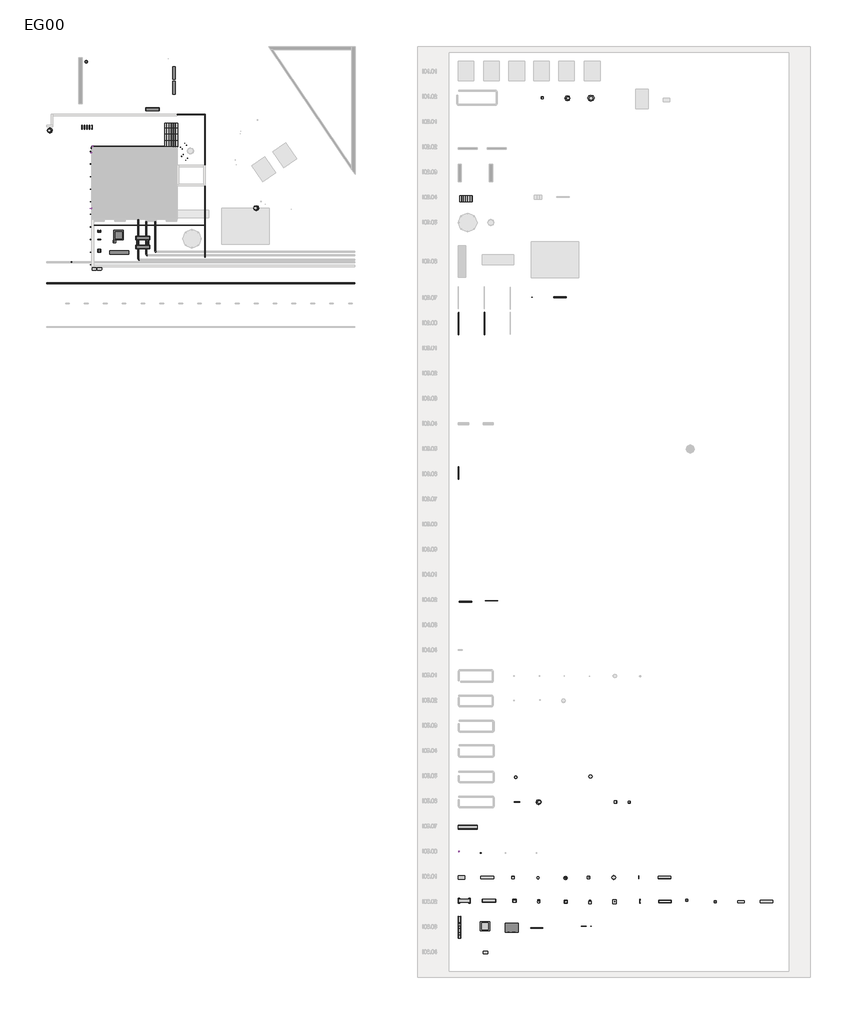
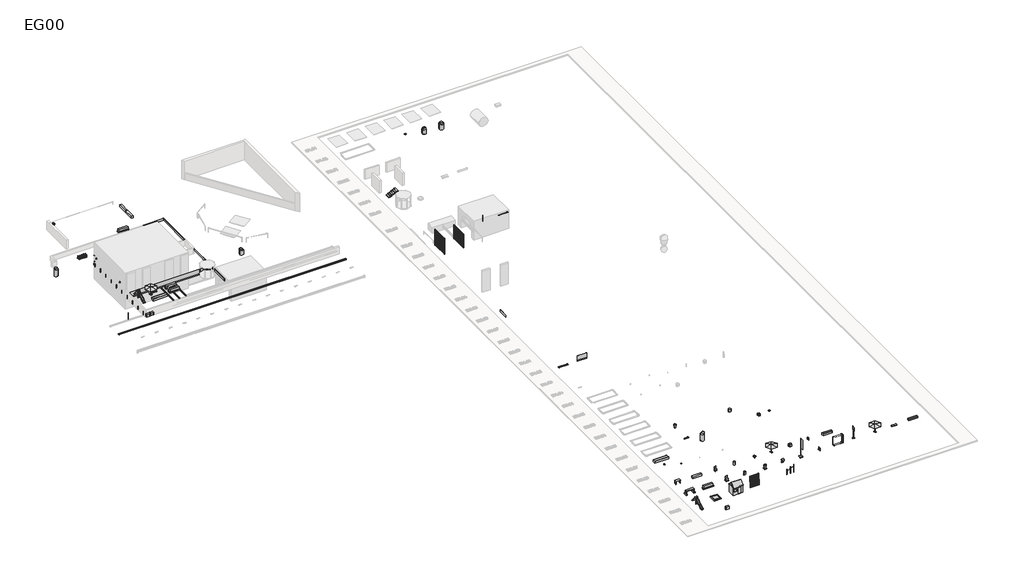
# One storey, part 2 of 11: 50 furniture elements, 19 proxies, 12 flow terminals, 11 railings, 5 stair flights, 3 pipe fittings, 3 pipe segments.
"""IFC4 building model written with IfcOpenShell, lengths in millimetres."""

from ifc_helpers import new_model, si_unit, point, frame, frame_2d, origin, place, context, project, spatial, circle_curve, trimmed, segment, composite_curve, outline, extrude, transform, mapped, element, save
from components import electrical_fixtures_34297ac7, electrical_fixtures_3000d69f, electrical_fixtures_b391b782, electrical_equipment_b557190b, electrical_equipment_8076ec5c, electrical_equipment_b3faa87d, electrical_fixtures_0368c62d, flow_terminal_82f1f436, flow_terminal_9764207f, flow_terminal_2da2d334, flow_terminal_26ed87ea, flow_terminal_a3e2234b, flow_terminal_ff592e24, flow_terminal_dcfcd022, electrical_fixtures_4c376501, flow_terminal_b57fc72c, flow_terminal_e8c35260, flow_terminal_22d4d4f2, furniture_6561b1c4, furniture_8dd0353e, furniture_915aded3, furniture_189685f6, furniture_dd9871c5, furniture_d59bbce5, furniture_fb11fbc3, furniture_830f77a6, furniture_6815aafc, furniture_3bc6ac6a, furniture_ff813913, furniture_e2d0ad92, furniture_258186c3, furniture_b44a5947, furniture_e13cb9a2, furniture_c1f0b13a, furniture_fefc07bd, furniture_3b0ba110, furniture_cb038389, furniture_f3e5ba3b, furniture_a2e2619c, furniture_e3935824, furniture_89e2eb93, furniture_42533b2d, furniture_2ee7efec, furniture_f8f826ff, furniture_ca1d1933, furniture_eb3f1c25, furniture_8d152977, bank_5bc5535e, bank_43931836, bank_31ef46f5, bank_18354e37, stuhl_65f0d0b8, stuhl_560c61f8, tisch_db3c5c43, tisch_469a66c3, tisch_c2e6e28e, tisch_132eb69d, bogen_9026c7fe, railing_e47c1bca, railing_e28421ba, railing_3c37f2a9, railing_6865458b, railing_da5ac5a1, railing_d0e901f3, railing_8d147197, railing_af8d3a7c, railing_17d5b5cc, railing_8559cf88, railing_fcaee8eb, railing_48c5bdfc, railing_4b05dc59, rinne_cb473c72, rinne_822a3f2f, stair_flight_353c6861, stair_flight_7bdfbe37, stair_flight_c193be0b, stair_flight_f215e563, stair_flight_71055052

model = new_model("IFC4")

# Units and contexts
model_context = context("Model", 3, world=origin())
ifc_project = project(units=[si_unit("LENGTHUNIT", "METRE", prefix="MILLI")], contexts=[model_context])

# Site, building, storey
site = spatial("IfcSite", under=ifc_project)
building = spatial("IfcBuilding", under=site)
storey = spatial("IfcBuildingStorey", under=building, Name="EG00", Elevation=0.0)

# Proxies
placement = place(None, origin())
electrical_fixtures_shape = electrical_fixtures_34297ac7(model_context)
element("IfcBuildingElementProxy", 1, Name="Zutrittskontrollanlage : Zutrittskontrollanlage", ObjectType="Zutrittskontrollanlage : Zutrittskontrollanlage", at=placement, inside=storey, context=model_context, shape_type="MappedRepresentation", body=[
    mapped(electrical_fixtures_shape, transform((-6366.4221303, -5695.8978657, 0.0), x_axis=(1.0, 0.0, 0.0), y_axis=(0.0, 1.0, 0.0), z_axis=(0.0, 0.0, 1.0))),
])
electrical_fixtures_2_shape = electrical_fixtures_3000d69f(model_context)
element("IfcBuildingElementProxy", 2, Name="Videoüberwachungsanlage : Videoüberwachungsanlage", ObjectType="Videoüberwachungsanlage : Videoüberwachungsanlage", at=placement, inside=storey, context=model_context, shape_type="MappedRepresentation", body=[
    mapped(electrical_fixtures_2_shape, transform((46822.626143, -117743.5925041, 0.0), x_axis=(-1.0, 0.0, 0.0), y_axis=(0.0, -1.0, 0.0), z_axis=(0.0, 0.0, 1.0))),
])
electrical_fixtures_3_shape = electrical_fixtures_b391b782(model_context)
element("IfcBuildingElementProxy", 3, Name="Einbruchmeldeanlage, Überfallmeldeanlage : Einbruchmeldeanlage, Überfallmeldeanlage", ObjectType="Einbruchmeldeanlage, Überfallmeldeanlage : Einbruchmeldeanlage, Überfallmeldeanlage", at=placement, inside=storey, context=model_context, shape_type="MappedRepresentation", body=[
    mapped(electrical_fixtures_3_shape, transform((50380.1292997, -118065.219709, 0.0), x_axis=(-1.0, 0.0, 0.0), y_axis=(0.0, -1.0, 0.0), z_axis=(0.0, 0.0, 1.0))),
])
electrical_equipment_shape = electrical_equipment_b557190b(model_context)
element("IfcBuildingElementProxy", 4, Name="Starkstromdose : Starkstromdose", ObjectType="Starkstromdose : Starkstromdose", at=placement, inside=storey, context=model_context, shape_type="MappedRepresentation", body=[
    mapped(electrical_equipment_shape, transform((-11551.8892616, -5972.7087936, 0.0), x_axis=(1.0, 0.0, 0.0), y_axis=(0.0, 1.0, 0.0), z_axis=(0.0, 0.0, 1.0))),
])
electrical_equipment_2_shape = electrical_equipment_8076ec5c(model_context)
element("IfcBuildingElementProxy", 5, Name="Aussenleuchten : Aussenleuchten", ObjectType="Aussenleuchten : Aussenleuchten", at=placement, inside=storey, context=model_context, shape_type="MappedRepresentation", body=[
    mapped(electrical_equipment_2_shape, transform((-11731.2571469, -6546.697095, 0.0), x_axis=(1.0, 0.0, 0.0), y_axis=(0.0, 1.0, 0.0), z_axis=(0.0, 0.0, 1.0))),
])
element("IfcBuildingElementProxy", 6, Name="Aussenleuchten : Aussenleuchten", ObjectType="Aussenleuchten : Aussenleuchten", at=placement, inside=storey, context=model_context, shape_type="MappedRepresentation", body=[
    mapped(electrical_equipment_2_shape, transform((-11731.2571469, -8546.697095, 0.0), x_axis=(1.0, 0.0, 0.0), y_axis=(0.0, 1.0, 0.0), z_axis=(0.0, 0.0, 1.0))),
])
element("IfcBuildingElementProxy", 7, Name="Aussenleuchten : Aussenleuchten", ObjectType="Aussenleuchten : Aussenleuchten", at=placement, inside=storey, context=model_context, shape_type="MappedRepresentation", body=[
    mapped(electrical_equipment_2_shape, transform((-11731.2571469, -10546.697095, 0.0), x_axis=(1.0, 0.0, 0.0), y_axis=(0.0, 1.0, 0.0), z_axis=(0.0, 0.0, 1.0))),
])
element("IfcBuildingElementProxy", 8, Name="Aussenleuchten : Aussenleuchten", ObjectType="Aussenleuchten : Aussenleuchten", at=placement, inside=storey, context=model_context, shape_type="MappedRepresentation", body=[
    mapped(electrical_equipment_2_shape, transform((-11731.2571469, -12546.697095, 0.0), x_axis=(1.0, 0.0, 0.0), y_axis=(0.0, 1.0, 0.0), z_axis=(0.0, 0.0, 1.0))),
])
element("IfcBuildingElementProxy", 9, Name="Aussenleuchten : Aussenleuchten", ObjectType="Aussenleuchten : Aussenleuchten", at=placement, inside=storey, context=model_context, shape_type="MappedRepresentation", body=[
    mapped(electrical_equipment_2_shape, transform((-11731.2571469, -14546.697095, 0.0), x_axis=(1.0, 0.0, 0.0), y_axis=(0.0, 1.0, 0.0), z_axis=(0.0, 0.0, 1.0))),
])
element("IfcBuildingElementProxy", 10, Name="Aussenleuchten : Aussenleuchten", ObjectType="Aussenleuchten : Aussenleuchten", at=placement, inside=storey, context=model_context, shape_type="MappedRepresentation", body=[
    mapped(electrical_equipment_2_shape, transform((-11731.2571469, -16546.697095, 0.0), x_axis=(1.0, 0.0, 0.0), y_axis=(0.0, 1.0, 0.0), z_axis=(0.0, 0.0, 1.0))),
])
element("IfcBuildingElementProxy", 11, Name="Aussenleuchten : Aussenleuchten", ObjectType="Aussenleuchten : Aussenleuchten", at=placement, inside=storey, context=model_context, shape_type="MappedRepresentation", body=[
    mapped(electrical_equipment_2_shape, transform((-11731.2571469, -18546.697095, 0.0), x_axis=(1.0, 0.0, 0.0), y_axis=(0.0, 1.0, 0.0), z_axis=(0.0, 0.0, 1.0))),
])
element("IfcBuildingElementProxy", 12, Name="Aussenleuchten : Aussenleuchten", ObjectType="Aussenleuchten : Aussenleuchten", at=placement, inside=storey, context=model_context, shape_type="MappedRepresentation", body=[
    mapped(electrical_equipment_2_shape, transform((-11731.2571469, -20546.697095, 0.0), x_axis=(1.0, 0.0, 0.0), y_axis=(0.0, 1.0, 0.0), z_axis=(0.0, 0.0, 1.0))),
])
element("IfcBuildingElementProxy", 13, Name="Aussenleuchten : Aussenleuchten", ObjectType="Aussenleuchten : Aussenleuchten", at=placement, inside=storey, context=model_context, shape_type="MappedRepresentation", body=[
    mapped(electrical_equipment_2_shape, transform((-11731.2571469, -22546.697095, 0.0), x_axis=(1.0, 0.0, 0.0), y_axis=(0.0, 1.0, 0.0), z_axis=(0.0, 0.0, 1.0))),
])
element("IfcBuildingElementProxy", 14, Name="Aussenleuchten : Aussenleuchten", ObjectType="Aussenleuchten : Aussenleuchten", at=placement, inside=storey, context=model_context, shape_type="MappedRepresentation", body=[
    mapped(electrical_equipment_2_shape, transform((-11731.2571469, -24546.697095, 0.0), x_axis=(1.0, 0.0, 0.0), y_axis=(0.0, 1.0, 0.0), z_axis=(0.0, 0.0, 1.0))),
])
element("IfcBuildingElementProxy", 15, Name="Schwachstromdose : Schwachstromdose", ObjectType="Schwachstromdose : Schwachstromdose", at=placement, inside=storey, context=model_context, shape_type="MappedRepresentation", body=[
    mapped(electrical_equipment_shape, transform((-11551.8892616, -5892.7087936, 0.0), x_axis=(1.0, 0.0, 0.0), y_axis=(0.0, 1.0, 0.0), z_axis=(0.0, 0.0, 1.0))),
])
electrical_equipment_3_shape = electrical_equipment_b3faa87d(model_context)
element("IfcBuildingElementProxy", 16, Name="Schwachstromschalter : Schwachstromschalter", ObjectType="Schwachstromschalter : Schwachstromschalter", at=placement, inside=storey, context=model_context, shape_type="MappedRepresentation", body=[
    mapped(electrical_equipment_3_shape, transform((-11551.8892616, -6052.7087936, 0.0), x_axis=(0.0, -1.0, 0.0), y_axis=(1.0, 0.0, 0.0), z_axis=(0.0, 0.0, 1.0))),
])
electrical_fixtures_4_shape = electrical_fixtures_0368c62d(model_context)
element("IfcBuildingElementProxy", 17, Name="Videoüberwachungsanlage : Videoüberwachungsanlage", ObjectType="Videoüberwachungsanlage : Videoüberwachungsanlage", at=placement, inside=storey, context=model_context, shape_type="MappedRepresentation", body=[
    mapped(electrical_fixtures_4_shape, transform((-11405.4157618, -5825.8978657, 0.0), x_axis=(-1.0, 0.0, 0.0), y_axis=(0.0, -1.0, 0.0), z_axis=(0.0, 0.0, 1.0))),
])
element("IfcBuildingElementProxy", 18, Name="Videoüberwachungsanlage : Videoüberwachungsanlage", ObjectType="Videoüberwachungsanlage : Videoüberwachungsanlage", at=placement, inside=storey, context=model_context, shape_type="MappedRepresentation", body=[
    mapped(electrical_fixtures_4_shape, transform((-11511.8892616, -15589.0459192, 0.0), x_axis=(0.0, -1.0, 0.0), y_axis=(1.0, 0.0, 0.0), z_axis=(0.0, 0.0, 1.0))),
])
element("IfcBuildingElementProxy", 19, Name="Videoüberwachungsanlage : Videoüberwachungsanlage", ObjectType="Videoüberwachungsanlage : Videoüberwachungsanlage", at=placement, inside=storey, context=model_context, shape_type="MappedRepresentation", body=[
    mapped(electrical_fixtures_4_shape, transform((-11511.8892616, -6749.0459192, 0.0), x_axis=(0.0, -1.0, 0.0), y_axis=(1.0, 0.0, 0.0), z_axis=(0.0, 0.0, 1.0))),
])

# Flow terminals
flow_terminal_shape = flow_terminal_82f1f436(model_context)
element("IfcFlowTerminal", 20, ObjectType="Versickerungsschacht : Versickerungsschacht", at=placement, inside=storey, context=model_context, shape_type="MappedRepresentation", body=[
    mapped(flow_terminal_shape, transform((64167.0325552, 1925.7230368, 0.0), x_axis=(-1.0, 0.0, 0.0), y_axis=(0.0, -1.0, 0.0), z_axis=(0.0, 0.0, 1.0))),
])
flow_terminal_2_shape = flow_terminal_9764207f(model_context)
element("IfcFlowTerminal", 21, ObjectType="Kontrollschacht : Kontrollschacht", at=placement, inside=storey, context=model_context, shape_type="MappedRepresentation", body=[
    mapped(flow_terminal_2_shape, transform((60081.6510931, 1973.7164495, 0.0), x_axis=(-1.0, 0.0, 0.0), y_axis=(0.0, -1.0, 0.0), z_axis=(0.0, 0.0, 1.0))),
])
element("IfcFlowTerminal", 22, ObjectType="Kontrollschacht : Kontrollschacht", at=placement, inside=storey, context=model_context, shape_type="MappedRepresentation", body=[
    mapped(flow_terminal_2_shape, transform((73903.3799507, -109975.6236446, 0.0), x_axis=(-1.0, 0.0, 0.0), y_axis=(0.0, -1.0, 0.0), z_axis=(0.0, 0.0, 1.0))),
])
flow_terminal_3_shape = flow_terminal_2da2d334(model_context)
element("IfcFlowTerminal", 23, ObjectType="Pumpschacht : Pumpschacht", at=placement, inside=storey, context=model_context, shape_type="MappedRepresentation", body=[
    mapped(flow_terminal_3_shape, transform((67837.0325552, 1925.7230368, 0.0), x_axis=(-1.0, 0.0, 0.0), y_axis=(0.0, -1.0, 0.0), z_axis=(0.0, 0.0, 1.0))),
])
flow_terminal_4_shape = flow_terminal_26ed87ea(model_context)
element("IfcFlowTerminal", 24, ObjectType="Brunnen : Brunnen", at=placement, inside=storey, context=model_context, shape_type="MappedRepresentation", body=[
    mapped(flow_terminal_4_shape, transform((55871.6718923, -106032.2763043, 0.0), x_axis=(-1.0, 0.0, 0.0), y_axis=(0.0, -1.0, 0.0), z_axis=(0.0, 0.0, 1.0))),
])
flow_terminal_5_shape = flow_terminal_a3e2234b(model_context)
element("IfcFlowTerminal", 25, ObjectType="Einlaufschacht : Strassenablauf (Einlaufschacht)", at=placement, inside=storey, context=model_context, shape_type="MappedRepresentation", body=[
    mapped(flow_terminal_5_shape, transform((71703.3799507, -109969.0932533, 0.0), x_axis=(-1.0, 0.0, 0.0), y_axis=(0.0, -1.0, 0.0), z_axis=(0.0, 0.0, 1.0))),
])
flow_terminal_6_shape = flow_terminal_ff592e24(model_context)
element("IfcFlowTerminal", 26, ObjectType="Schlammsammler : Strassenablauf (Schlammsammler)", at=placement, inside=storey, context=model_context, shape_type="MappedRepresentation", body=[
    mapped(flow_terminal_6_shape, transform((59593.5658377, -109975.6236446, 0.0), x_axis=(-1.0, 0.0, 0.0), y_axis=(0.0, -1.0, 0.0), z_axis=(0.0, 0.0, 1.0))),
])
flow_terminal_7_shape = flow_terminal_dcfcd022(model_context)
element("IfcFlowTerminal", 27, ObjectType="Fixierte Ausstattung Brunnen : Brunnen", at=placement, inside=storey, context=model_context, shape_type="MappedRepresentation", body=[
    mapped(flow_terminal_7_shape, transform((63843.498535, -125832.1903529, 0.0), x_axis=(-1.0, 0.0, 0.0), y_axis=(0.0, -1.0, 0.0), z_axis=(0.0, 0.0, 1.0))),
])
electrical_fixtures_5_shape = electrical_fixtures_4c376501(model_context)
element("IfcFlowTerminal", 28, ObjectType="Technikschacht Sanitäre Anlage : Technikschacht", at=placement, inside=storey, context=model_context, shape_type="MappedRepresentation", body=[
    mapped(electrical_fixtures_5_shape, transform((67750.3461761, -105924.1987586, 0.0), x_axis=(-1.0, 0.0, 0.0), y_axis=(0.0, -1.0, 0.0), z_axis=(0.0, 0.0, 1.0))),
])
flow_terminal_8_shape = flow_terminal_b57fc72c(model_context)
element("IfcFlowTerminal", 29, ObjectType="Schlammsammler : Strassenablauf (Schlammsammler)", at=placement, inside=storey, context=model_context, shape_type="MappedRepresentation", body=[
    mapped(flow_terminal_8_shape, transform((-18304.7537228, -3203.9886736, 0.0), x_axis=(1.0, 0.0, 0.0), y_axis=(0.0, 1.0, 0.0), z_axis=(0.0, 0.0, 1.0))),
])
flow_terminal_9_shape = flow_terminal_e8c35260(model_context)
element("IfcFlowTerminal", 30, ObjectType="Versickerungsschacht : Versickerungsschacht", at=placement, inside=storey, context=model_context, shape_type="MappedRepresentation", body=[
    mapped(flow_terminal_9_shape, transform((14513.1107384, -15558.9886736, 380.0), x_axis=(1.0, 0.0, 0.0), y_axis=(0.0, 1.0, 0.0), z_axis=(0.0, 0.0, 1.0))),
])
flow_terminal_10_shape = flow_terminal_22d4d4f2(model_context)
element("IfcFlowTerminal", 31, ObjectType="Brunnen : Brunnen", at=placement, inside=storey, context=model_context, shape_type="MappedRepresentation", body=[
    mapped(flow_terminal_10_shape, transform((-12441.8892616, 7734.1171855, 708.7425535), x_axis=(1.0, 0.0, 0.0), y_axis=(0.0, 1.0, 0.0), z_axis=(0.0, 0.0, 1.0))),
])

# Furniture
furniture_shape = furniture_6561b1c4(model_context)
element("IfcFurniture", 32, ObjectType="Schutzplanke : Schutzplanke", at=placement, inside=storey, context=model_context, shape_type="MappedRepresentation", body=[
    mapped(furniture_shape, transform((62903.5833117, -29709.2259498, 0.0), x_axis=(-1.0, 0.0, 0.0), y_axis=(0.0, -1.0, 0.0), z_axis=(0.0, 0.0, 1.0))),
])
furniture_2_shape = furniture_8dd0353e(model_context)
element("IfcFurniture", 33, ObjectType="Poller : Poller", at=placement, inside=storey, context=model_context, shape_type="MappedRepresentation", body=[
    mapped(furniture_2_shape, transform((58480.5725088, -29716.4287825, 0.0), x_axis=(-1.0, 0.0, 0.0), y_axis=(0.0, -1.0, 0.0), z_axis=(0.0, 0.0, 1.0))),
])
furniture_3_shape = furniture_915aded3(model_context)
element("IfcFurniture", 34, ObjectType="Mobile Ausstattung Abfalleimer : Abfalleimer", at=placement, inside=storey, context=model_context, shape_type="MappedRepresentation", body=[
    mapped(furniture_3_shape, transform((59405.1754448, -122015.3747041, 0.0), x_axis=(-1.0, 0.0, 0.0), y_axis=(0.0, -1.0, 0.0), z_axis=(0.0, 0.0, 1.0))),
])
furniture_4_shape = furniture_189685f6(model_context)
element("IfcFurniture", 35, ObjectType="Mobile Ausstattung Pflanzgefäss : Pflanzgefäss", at=placement, inside=storey, context=model_context, shape_type="MappedRepresentation", body=[
    mapped(furniture_4_shape, transform((71452.8190351, -121967.7721721, 0.0), x_axis=(-1.0, 0.0, 0.0), y_axis=(0.0, -1.0, 0.0), z_axis=(0.0, 0.0, 1.0))),
])
furniture_5_shape = furniture_dd9871c5(model_context)
element("IfcFurniture", 36, ObjectType="Mobile Ausstattung Veloständer : Veloständer", at=placement, inside=storey, context=model_context, shape_type="MappedRepresentation", body=[
    mapped(furniture_5_shape, transform((75417.4242524, -121864.1260263, 0.0), x_axis=(-1.0, 0.0, 0.0), y_axis=(0.0, -1.0, 0.0), z_axis=(0.0, 0.0, 1.0))),
])
furniture_6_shape = furniture_d59bbce5(model_context)
element("IfcFurniture", 37, ObjectType="Mobile Ausstattung Materialbehälter : Materialbehälter", at=placement, inside=storey, context=model_context, shape_type="MappedRepresentation", body=[
    mapped(furniture_6_shape, transform((79495.8937145, -121936.7852484, 0.0), x_axis=(-1.0, 0.0, 0.0), y_axis=(0.0, -1.0, 0.0), z_axis=(0.0, 0.0, 1.0))),
])
element("IfcFurniture", 38, ObjectType="Mobile Ausstattung Materialbehälter : Materialbehälter", at=placement, inside=storey, context=model_context, shape_type="MappedRepresentation", body=[
    mapped(furniture_6_shape, transform((95733.4470613, -125801.3226029, 0.0), x_axis=(-1.0, 0.0, 0.0), y_axis=(0.0, -1.0, 0.0), z_axis=(0.0, 0.0, 1.0))),
])
furniture_7_shape = furniture_fb11fbc3(model_context)
element("IfcFurniture", 39, ObjectType="Transportanlage für Umgebung : Transportanlage für Umgebung", at=placement, inside=storey, context=model_context, shape_type="MappedRepresentation", body=[
    mapped(furniture_7_shape, transform((48222.626143, -113964.7448611, 0.0), x_axis=(-1.0, 0.0, 0.0), y_axis=(0.0, -1.0, 0.0), z_axis=(0.0, 0.0, 1.0))),
])
furniture_8_shape = furniture_830f77a6(model_context)
element("IfcFurniture", 40, ObjectType="Rankgerüst : Rankgerüst", at=placement, inside=storey, context=model_context, shape_type="MappedRepresentation", body=[
    mapped(furniture_8_shape, transform((78588.0889124, -125788.1240797, 0.0), x_axis=(-1.0, 0.0, 0.0), y_axis=(0.0, -1.0, 0.0), z_axis=(0.0, 0.0, 1.0))),
])
furniture_9_shape = furniture_6815aafc(model_context)
element("IfcFurniture", 41, ObjectType="Hochwasserschutzelement : Hochwasserschutzelement", at=placement, inside=storey, context=model_context, shape_type="MappedRepresentation", body=[
    mapped(furniture_9_shape, transform((91659.5428311, -125839.7381019, 0.0), x_axis=(-1.0, 0.0, 0.0), y_axis=(0.0, -1.0, 0.0), z_axis=(0.0, 0.0, 1.0))),
])
furniture_10_shape = furniture_3bc6ac6a(model_context)
element("IfcFurniture", 42, ObjectType="Rutsche : Rutsche", at=placement, inside=storey, context=model_context, shape_type="MappedRepresentation", body=[
    mapped(furniture_10_shape, transform((47138.2773181, -129229.697095, 0.0), x_axis=(-1.0, 0.0, 0.0), y_axis=(0.0, -1.0, 0.0), z_axis=(0.0, 0.0, 1.0))),
])
furniture_11_shape = furniture_ff813913(model_context)
element("IfcFurniture", 43, ObjectType="Sandkasten : Sandkasten", at=placement, inside=storey, context=model_context, shape_type="MappedRepresentation", body=[
    mapped(furniture_11_shape, transform((50961.6008151, -129719.697095, 0.0), x_axis=(-1.0, 0.0, 0.0), y_axis=(0.0, -1.0, 0.0), z_axis=(0.0, 0.0, 1.0))),
])
furniture_12_shape = furniture_e2d0ad92(model_context)
element("IfcFurniture", 44, ObjectType="Kletteranlage : Kletteranlage", at=placement, inside=storey, context=model_context, shape_type="MappedRepresentation", body=[
    mapped(furniture_12_shape, transform((59222.6625131, -130144.099996, 0.0), x_axis=(-1.0, 0.0, 0.0), y_axis=(0.0, -1.0, 0.0), z_axis=(0.0, 0.0, 1.0))),
])
furniture_13_shape = furniture_258186c3(model_context)
element("IfcFurniture", 45, ObjectType="Spielhaus : Spielhaus", at=placement, inside=storey, context=model_context, shape_type="MappedRepresentation", body=[
    mapped(furniture_13_shape, transform((55225.985609, -129719.697095, 0.0), x_axis=(-1.0, 0.0, 0.0), y_axis=(0.0, -1.0, 0.0), z_axis=(0.0, 0.0, 1.0))),
])
furniture_14_shape = furniture_b44a5947(model_context)
element("IfcFurniture", 46, ObjectType="Sportgerät : Sportgerät", at=placement, inside=storey, context=model_context, shape_type="MappedRepresentation", body=[
    mapped(furniture_14_shape, transform((67826.6357984, -129719.697095, 0.0), x_axis=(-1.0, 0.0, 0.0), y_axis=(0.0, -1.0, 0.0), z_axis=(0.0, 0.0, 1.0))),
])
furniture_15_shape = furniture_e13cb9a2(model_context)
element("IfcFurniture", 47, ObjectType="Rollcontainer : Rollcontainer", at=placement, inside=storey, context=model_context, shape_type="MappedRepresentation", body=[
    mapped(furniture_15_shape, transform((51048.0539375, -133897.3557688, 0.0), x_axis=(-1.0, 0.0, 0.0), y_axis=(0.0, -1.0, 0.0), z_axis=(0.0, 0.0, 1.0))),
])
furniture_16_shape = furniture_c1f0b13a(model_context)
element("IfcFurniture", 48, ObjectType="Fixierte Ausstattung Abfalleimer : Abfalleimer", at=placement, inside=storey, context=model_context, shape_type="MappedRepresentation", body=[
    mapped(furniture_16_shape, transform((59505.2855845, -125858.8723019, 0.0), x_axis=(-1.0, 0.0, 0.0), y_axis=(0.0, -1.0, 0.0), z_axis=(0.0, 0.0, 1.0))),
])
furniture_17_shape = furniture_fefc07bd(model_context)
element("IfcFurniture", 49, ObjectType="Fixierte Ausstattung Briefkasten : Briefkasten", at=placement, inside=storey, context=model_context, shape_type="MappedRepresentation", body=[
    mapped(furniture_17_shape, transform((67654.5709532, -125909.9949795, 0.0), x_axis=(-1.0, 0.0, 0.0), y_axis=(0.0, -1.0, 0.0), z_axis=(0.0, 0.0, 1.0))),
])
furniture_18_shape = furniture_3b0ba110(model_context)
element("IfcFurniture", 50, ObjectType="Fixierte Ausstattung Fahnenmast : Fahnenmast", at=placement, inside=storey, context=model_context, shape_type="MappedRepresentation", body=[
    mapped(furniture_18_shape, transform((71587.8042696, -126015.4363816, 0.0), x_axis=(-1.0, 0.0, 0.0), y_axis=(0.0, -1.0, 0.0), z_axis=(0.0, 0.0, 1.0))),
])
furniture_19_shape = furniture_cb038389(model_context)
element("IfcFurniture", 51, ObjectType="Fixierte Ausstattung Veloständer : Veloständer", at=placement, inside=storey, context=model_context, shape_type="MappedRepresentation", body=[
    mapped(furniture_19_shape, transform((75604.7071863, -125687.4521781, 0.0), x_axis=(-1.0, 0.0, 0.0), y_axis=(0.0, -1.0, 0.0), z_axis=(0.0, 0.0, 1.0))),
])
furniture_20_shape = furniture_f3e5ba3b(model_context)
element("IfcFurniture", 52, ObjectType="Fixierte Ausstattung Signaletik : Signaletik", at=placement, inside=storey, context=model_context, shape_type="MappedRepresentation", body=[
    mapped(furniture_20_shape, transform((83041.4569965, -125809.1402724, 0.0), x_axis=(-1.0, 0.0, 0.0), y_axis=(0.0, -1.0, 0.0), z_axis=(0.0, 0.0, 1.0))),
])
furniture_21_shape = furniture_a2e2619c(model_context)
element("IfcFurniture", 53, ObjectType="Fixierte Ausstattung Sonnenschutz : Sonnenschutz", at=placement, inside=storey, context=model_context, shape_type="MappedRepresentation", body=[
    mapped(furniture_21_shape, transform((87576.4664133, -125812.3101919, 0.0), x_axis=(-1.0, 0.0, 0.0), y_axis=(0.0, -1.0, 0.0), z_axis=(0.0, 0.0, 1.0))),
])
furniture_22_shape = furniture_e3935824(model_context)
element("IfcFurniture", 54, ObjectType="Mobile Ausstattung Sonnenschutz : Sonnenschutz", at=placement, inside=storey, context=model_context, shape_type="MappedRepresentation", body=[
    mapped(furniture_22_shape, transform((67471.0079255, -121949.1160004, 0.0), x_axis=(-1.0, 0.0, 0.0), y_axis=(0.0, -1.0, 0.0), z_axis=(0.0, 0.0, 1.0))),
])
furniture_23_shape = furniture_89e2eb93(model_context)
element("IfcFurniture", 55, ObjectType="Mobile Ausstattung Spielgerät : Spielgerät", at=placement, inside=storey, context=model_context, shape_type="MappedRepresentation", body=[
    mapped(furniture_23_shape, transform((63793.6411681, -122029.6804102, 0.0), x_axis=(1.0, 0.0, 0.0), y_axis=(0.0, 1.0, 0.0), z_axis=(0.0, 0.0, 1.0))),
])
element("IfcFurniture", 56, ObjectType="Poller : Poller", at=placement, inside=storey, context=model_context, shape_type="MappedRepresentation", body=[
    mapped(furniture_2_shape, transform((-14741.5513328, -24114.2149625, 0.0), x_axis=(1.0, 0.0, 0.0), y_axis=(0.0, 1.0, 0.0), z_axis=(0.0, 0.0, 1.0))),
])
furniture_24_shape = furniture_42533b2d(model_context)
element("IfcFurniture", 57, ObjectType="Transportanlage für Umgebung : Transportanlage für Umgebung", at=placement, inside=storey, context=model_context, shape_type="MappedRepresentation", body=[
    mapped(furniture_24_shape, transform((-7152.7537228, -22609.5588268, 1013.8635713), x_axis=(1.0, 0.0, 0.0), y_axis=(0.0, 1.0, 0.0), z_axis=(0.0, 0.0, 1.0))),
])
furniture_25_shape = furniture_2ee7efec(model_context)
element("IfcFurniture", 58, ObjectType="Mobile Ausstattung Sonnenschutz : Sonnenschutz", at=placement, inside=storey, context=model_context, shape_type="MappedRepresentation", body=[
    mapped(furniture_25_shape, transform((-7946.8892616, -20853.5588268, 1029.9200139), x_axis=(1.0, 0.0, 0.0), y_axis=(0.0, 1.0, 0.0), z_axis=(0.0, 0.0, 1.0))),
])
furniture_26_shape = furniture_f8f826ff(model_context)
element("IfcFurniture", 59, ObjectType="Rutsche : Rutsche", at=placement, inside=storey, context=model_context, shape_type="MappedRepresentation", body=[
    mapped(furniture_26_shape, transform((-10555.7537228, -20160.8978657, 1013.7276128), x_axis=(1.0, 0.0, 0.0), y_axis=(0.0, 1.0, 0.0), z_axis=(0.0, 0.0, 1.0))),
])
furniture_27_shape = furniture_ca1d1933(model_context)
element("IfcFurniture", 60, ObjectType="Sandkasten : Sandkasten", at=placement, inside=storey, context=model_context, shape_type="MappedRepresentation", body=[
    mapped(furniture_27_shape, transform((-7256.7537228, -19850.5588268, 1022.8090801), x_axis=(1.0, 0.0, 0.0), y_axis=(0.0, 1.0, 0.0), z_axis=(0.0, 0.0, 1.0))),
])
furniture_28_shape = furniture_eb3f1c25(model_context)
element("IfcFurniture", 61, ObjectType="Rollcontainer : Rollcontainer", at=placement, inside=storey, context=model_context, shape_type="MappedRepresentation", body=[
    mapped(furniture_28_shape, transform((-11142.8336119, -25194.0858026, -200.0), x_axis=(1.0, 0.0, 0.0), y_axis=(0.0, 1.0, 0.0), z_axis=(0.0, 0.0, 1.0))),
])
element("IfcFurniture", 62, ObjectType="Rollcontainer : Rollcontainer", at=placement, inside=storey, context=model_context, shape_type="MappedRepresentation", body=[
    mapped(furniture_28_shape, transform((-10329.8336119, -25194.0858026, -200.0), x_axis=(1.0, 0.0, 0.0), y_axis=(0.0, 1.0, 0.0), z_axis=(0.0, 0.0, 1.0))),
])
furniture_29_shape = furniture_8d152977(model_context)
element("IfcFurniture", 63, ObjectType="Fixierte Ausstattung Veloständer : Veloständer", at=placement, inside=storey, context=model_context, shape_type="MappedRepresentation", body=[
    mapped(furniture_29_shape, transform((-13084.7136455, -2618.9886736, 0.0), x_axis=(1.0, 0.0, 0.0), y_axis=(0.0, 1.0, 0.0), z_axis=(0.0, 0.0, 1.0))),
])
element("IfcFurniture", 64, ObjectType="Fixierte Ausstattung Veloständer : Veloständer", at=placement, inside=storey, context=model_context, shape_type="MappedRepresentation", body=[
    mapped(furniture_29_shape, transform((-12684.7136455, -2618.9886736, 0.0), x_axis=(1.0, 0.0, 0.0), y_axis=(0.0, 1.0, 0.0), z_axis=(0.0, 0.0, 1.0))),
])
element("IfcFurniture", 65, ObjectType="Fixierte Ausstattung Veloständer : Veloständer", at=placement, inside=storey, context=model_context, shape_type="MappedRepresentation", body=[
    mapped(furniture_29_shape, transform((-12284.7136455, -2618.9886736, 0.0), x_axis=(1.0, 0.0, 0.0), y_axis=(0.0, 1.0, 0.0), z_axis=(0.0, 0.0, 1.0))),
])
element("IfcFurniture", 66, ObjectType="Fixierte Ausstattung Veloständer : Veloständer", at=placement, inside=storey, context=model_context, shape_type="MappedRepresentation", body=[
    mapped(furniture_29_shape, transform((-11884.7136455, -2618.9886736, 0.0), x_axis=(1.0, 0.0, 0.0), y_axis=(0.0, 1.0, 0.0), z_axis=(0.0, 0.0, 1.0))),
])
element("IfcFurniture", 67, ObjectType="Fixierte Ausstattung Veloständer : Veloständer", at=placement, inside=storey, context=model_context, shape_type="MappedRepresentation", body=[
    mapped(furniture_29_shape, transform((-11484.7136455, -2618.9886736, 0.0), x_axis=(1.0, 0.0, 0.0), y_axis=(0.0, 1.0, 0.0), z_axis=(0.0, 0.0, 1.0))),
])
bank_shape = bank_5bc5535e(model_context)
element("IfcFurniture", 68, ObjectType="Mobile Ausstattung Bank : Bank", at=placement, inside=storey, context=model_context, shape_type="MappedRepresentation", body=[
    mapped(bank_shape, transform((51340.7906508, -121984.1232512, 0.0), x_axis=(-1.0, 0.0, 0.0), y_axis=(0.0, -1.0, 0.0), z_axis=(0.0, 0.0, 1.0))),
])
bank_2_shape = bank_43931836(model_context)
element("IfcFurniture", 69, ObjectType="Fixierte Ausstattung Bank : Bank", at=placement, inside=storey, context=model_context, shape_type="MappedRepresentation", body=[
    mapped(bank_2_shape, transform((51606.6843563, -125652.48626, 0.0), x_axis=(-1.0, 0.0, 0.0), y_axis=(0.0, -1.0, 0.0), z_axis=(0.0, 0.0, 1.0))),
])
bank_3_shape = bank_31ef46f5(model_context)
element("IfcFurniture", 70, ObjectType="Mobile Ausstattung Bank : Bank", at=placement, inside=storey, context=model_context, shape_type="MappedRepresentation", body=[
    mapped(bank_3_shape, transform((1550.7107183, 3596.6529572, 905.8064171), x_axis=(0.0, 1.0, 0.0), y_axis=(-1.0, 0.0, 0.0), z_axis=(0.0, 0.0, 1.0))),
])
element("IfcFurniture", 71, ObjectType="Mobile Ausstattung Bank : Bank", at=placement, inside=storey, context=model_context, shape_type="MappedRepresentation", body=[
    mapped(bank_3_shape, transform((1550.7107183, 5936.6529572, 905.8064171), x_axis=(0.0, 1.0, 0.0), y_axis=(-1.0, 0.0, 0.0), z_axis=(0.0, 0.0, 1.0))),
])
bank_4_shape = bank_18354e37(model_context)
element("IfcFurniture", 72, ObjectType="Fixierte Ausstattung Bank : Bank", at=placement, inside=storey, context=model_context, shape_type="MappedRepresentation", body=[
    mapped(bank_4_shape, transform((-3423.1700497, -20283.399031, 1023.7955423), x_axis=(1.0, 0.0, 0.0), y_axis=(0.0, 1.0, 0.0), z_axis=(0.0, 0.0, 1.0))),
])
element("IfcFurniture", 73, ObjectType="Fixierte Ausstattung Bank : Bank", at=placement, inside=storey, context=model_context, shape_type="MappedRepresentation", body=[
    mapped(bank_4_shape, transform((-3423.1700497, -21728.399031, 1028.2530253), x_axis=(1.0, 0.0, 0.0), y_axis=(0.0, 1.0, 0.0), z_axis=(0.0, 0.0, 1.0))),
])
element("IfcFurniture", 74, ObjectType="Fixierte Ausstattung Bank : Bank", at=placement, inside=storey, context=model_context, shape_type="MappedRepresentation", body=[
    mapped(bank_4_shape, transform((-1877.7890928, 156.4164148, 930.0), x_axis=(1.0, 0.0, 0.0), y_axis=(0.0, 1.0, 0.0), z_axis=(0.0, 0.0, 1.0))),
])
stuhl_shape = stuhl_65f0d0b8(model_context)
element("IfcFurniture", 75, ObjectType="Mobile Ausstattung Stuhl : Stuhl", at=placement, inside=storey, context=model_context, shape_type="MappedRepresentation", body=[
    mapped(stuhl_shape, transform((55394.4896721, -121975.3747041, 0.0), x_axis=(-1.0, 0.0, 0.0), y_axis=(0.0, -1.0, 0.0), z_axis=(0.0, 0.0, 1.0))),
])
stuhl_2_shape = stuhl_560c61f8(model_context)
element("IfcFurniture", 76, ObjectType="Fixierte Ausstattung Stuhl : Stuhl", at=placement, inside=storey, context=model_context, shape_type="MappedRepresentation", body=[
    mapped(stuhl_2_shape, transform((55666.1283284, -125696.6629741, 0.0), x_axis=(-1.0, 0.0, 0.0), y_axis=(0.0, -1.0, 0.0), z_axis=(0.0, 0.0, 1.0))),
])
tisch_shape = tisch_db3c5c43(model_context)
element("IfcFurniture", 77, ObjectType="Mobile Ausstattung Tisch : Tisch", at=placement, inside=storey, context=model_context, shape_type="MappedRepresentation", body=[
    mapped(tisch_shape, transform((3241.0701723, -7436.9436036, 987.1631437), x_axis=(0.743144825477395, -0.6691306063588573, 0.0), y_axis=(0.6691306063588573, 0.743144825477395, 0.0), z_axis=(0.0, 0.0, 1.0))),
])
element("IfcFurniture", 78, ObjectType="Mobile Ausstattung Tisch : Tisch", at=placement, inside=storey, context=model_context, shape_type="MappedRepresentation", body=[
    mapped(tisch_shape, transform((47222.626143, -122021.4467524, 0.0), x_axis=(-1.0, 0.0, 0.0), y_axis=(0.0, -1.0, 0.0), z_axis=(0.0, 0.0, 1.0))),
])
tisch_2_shape = tisch_469a66c3(model_context)
element("IfcFurniture", 79, ObjectType="Fixierte Ausstattung Tisch : Tisch", at=placement, inside=storey, context=model_context, shape_type="MappedRepresentation", body=[
    mapped(tisch_2_shape, transform((47677.9662966, -125729.891274, 0.0), x_axis=(-1.0, 0.0, 0.0), y_axis=(0.0, -1.0, 0.0), z_axis=(0.0, 0.0, 1.0))),
])
tisch_3_shape = tisch_c2e6e28e(model_context)
element("IfcFurniture", 80, ObjectType="Mobile Ausstattung Tisch : Tisch", at=placement, inside=storey, context=model_context, shape_type="MappedRepresentation", body=[
    mapped(tisch_3_shape, transform((3093.3706283, -5737.337939, 990.2512637), x_axis=(0.7431448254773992, 0.6691306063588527, 0.0), y_axis=(-0.6691306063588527, 0.7431448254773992, 0.0), z_axis=(0.0, 0.0, 1.0))),
])
tisch_4_shape = tisch_132eb69d(model_context)
element("IfcFurniture", 81, ObjectType="Fixierte Ausstattung Tisch : Tisch", at=placement, inside=storey, context=model_context, shape_type="MappedRepresentation", body=[
    mapped(tisch_4_shape, transform((-3438.1700497, -21079.399031, 1027.6964752), x_axis=(1.0, 0.0, 0.0), y_axis=(0.0, 1.0, 0.0), z_axis=(0.0, 0.0, 1.0))),
])

# Pipe fittings
bogen_shape = bogen_9026c7fe(model_context)
element("IfcPipeFitting", 82, ObjectType="Bogen : Wärmeanlage für Umgebung", at=placement, inside=storey, context=model_context, shape_type="MappedRepresentation", body=[
    mapped(bogen_shape, transform((-4169.8892616, -23743.697095, -450.0), x_axis=(0.0, -1.0, 0.0), y_axis=(1.0, 0.0, 0.0), z_axis=(0.0, 0.0, 1.0))),
])
element("IfcPipeFitting", 83, ObjectType="Bogen : Kälteanlage für Umgebung", at=placement, inside=storey, context=model_context, shape_type="MappedRepresentation", body=[
    mapped(bogen_shape, transform((-1431.2708017, -22507.5588268, -450.0), x_axis=(0.0, -1.0, 0.0), y_axis=(1.0, 0.0, 0.0), z_axis=(0.0, 0.0, 1.0))),
])
element("IfcPipeFitting", 84, ObjectType="Bogen : Sanitäre Anlage für Umgebung", at=placement, inside=storey, context=model_context, shape_type="MappedRepresentation", body=[
    mapped(bogen_shape, transform((-2888.6957901, -23034.9886736, -450.1641794), x_axis=(0.0, -1.0, 0.0), y_axis=(1.0, 0.0, 0.0), z_axis=(0.0, 0.0, 1.0))),
])

# Pipe segments
element("IfcPipeSegment", 85, ObjectType="Wärmeanlage für Umgebung", at=placement, inside=storey, context=model_context, shape_type="SweptSolid", body=[
    extrude(outline(composite_curve([segment(trimmed(circle_curve(frame_2d((-450.0, -4169.8892616)), 80.0), [point((-450.0, -4089.8892616))], [point((-370.0, -4169.8892616))], False, "CARTESIAN"), True, "CONTINUOUS"), segment(trimmed(circle_curve(frame_2d((-450.0, -4169.8892616)), 80.0), [point((-370.0, -4169.8892616))], [point((-450.0, -4249.8892616))], False, "CARTESIAN"), True, "CONTINUOUS"), segment(trimmed(circle_curve(frame_2d((-450.0, -4169.8892616)), 80.0), [point((-450.0, -4249.8892616))], [point((-530.0, -4169.8892616))], False, "CARTESIAN"), True, "CONTINUOUS"), segment(trimmed(circle_curve(frame_2d((-450.0, -4169.8892616)), 80.0), [point((-530.0, -4169.8892616))], [point((-450.0, -4089.8892616))], False, "CARTESIAN"), True, "CONTINUOUS")], self_intersect=False)), frame((0.0, -23591.697095, 0.0), z_axis=(0.0, 1.0, 0.0), x_axis=(0.0, 0.0, 1.0)), (0.0, 0.0, 1.0), 6238.1382682),
])
element("IfcPipeSegment", 86, ObjectType="Kälteanlage für Umgebung", at=placement, inside=storey, context=model_context, shape_type="SweptSolid", body=[
    extrude(outline(composite_curve([segment(trimmed(circle_curve(frame_2d((-450.0, -1431.2708017)), 80.0), [point((-450.0, -1511.2708017))], [point((-530.0, -1431.2708017))], False, "CARTESIAN"), True, "CONTINUOUS"), segment(trimmed(circle_curve(frame_2d((-450.0, -1431.2708017)), 80.0), [point((-530.0, -1431.2708017))], [point((-450.0, -1351.2708017))], False, "CARTESIAN"), True, "CONTINUOUS"), segment(trimmed(circle_curve(frame_2d((-450.0, -1431.2708017)), 80.0), [point((-450.0, -1351.2708017))], [point((-370.0, -1431.2708017))], False, "CARTESIAN"), True, "CONTINUOUS"), segment(trimmed(circle_curve(frame_2d((-450.0, -1431.2708017)), 80.0), [point((-370.0, -1431.2708017))], [point((-450.0, -1511.2708017))], False, "CARTESIAN"), True, "CONTINUOUS")], self_intersect=False)), frame((0.0, -22355.5588268, 0.0), z_axis=(0.0, 1.0, 0.0), x_axis=(0.0, 0.0, 1.0)), (0.0, 0.0, 1.0), 5002.0),
])
element("IfcPipeSegment", 87, ObjectType="Sanitäre Anlage für Umgebung", at=placement, inside=storey, context=model_context, shape_type="SweptSolid", body=[
    extrude(outline(composite_curve([segment(trimmed(circle_curve(frame_2d((-450.1641794, -2888.6957901)), 80.0), [point((-450.1641794, -2808.6957901))], [point((-370.1641794, -2888.6957901))], False, "CARTESIAN"), True, "CONTINUOUS"), segment(trimmed(circle_curve(frame_2d((-450.1641794, -2888.6957901)), 80.0), [point((-370.1641794, -2888.6957901))], [point((-450.1641794, -2968.6957901))], False, "CARTESIAN"), True, "CONTINUOUS"), segment(trimmed(circle_curve(frame_2d((-450.1641794, -2888.6957901)), 80.0), [point((-450.1641794, -2968.6957901))], [point((-530.1641794, -2888.6957901))], False, "CARTESIAN"), True, "CONTINUOUS"), segment(trimmed(circle_curve(frame_2d((-450.1641794, -2888.6957901)), 80.0), [point((-530.1641794, -2888.6957901))], [point((-450.1641794, -2808.6957901))], False, "CARTESIAN"), True, "CONTINUOUS")], self_intersect=False)), frame((0.0, -22882.9886736, 0.0), z_axis=(0.0, 1.0, 0.0), x_axis=(0.0, 0.0, 1.0)), (0.0, 0.0, 1.0), 5529.4298468),
])

# Railings
railing_shape = railing_e47c1bca(model_context)
railing_2_shape = railing_e28421ba(model_context)
element("IfcRailing", 88, ObjectType="Ballfangzaun", at=placement, inside=storey, context=model_context, shape_type="MappedRepresentation", body=[
    mapped(railing_shape, transform((0.0, 0.0, 0.0), x_axis=(1.0, 0.0, 0.0), y_axis=(0.0, 1.0, 0.0), z_axis=(0.0, 0.0, 1.0))),
    mapped(railing_2_shape, transform((0.0, 0.0, 0.0), x_axis=(1.0, 0.0, 0.0), y_axis=(0.0, 1.0, 0.0), z_axis=(0.0, 0.0, 1.0))),
])
railing_3_shape = railing_3c37f2a9(model_context)
railing_4_shape = railing_6865458b(model_context)
railing_5_shape = railing_da5ac5a1(model_context)
railing_6_shape = railing_d0e901f3(model_context)
element("IfcRailing", 89, ObjectType="Zaun", at=placement, inside=storey, context=model_context, shape_type="MappedRepresentation", body=[
    mapped(railing_3_shape, transform((0.0, 0.0, 0.0), x_axis=(1.0, 0.0, 0.0), y_axis=(0.0, 1.0, 0.0), z_axis=(0.0, 0.0, 1.0))),
    mapped(railing_4_shape, transform((0.0, 0.0, 0.0), x_axis=(1.0, 0.0, 0.0), y_axis=(0.0, 1.0, 0.0), z_axis=(0.0, 0.0, 1.0))),
    mapped(railing_5_shape, transform((0.0, 0.0, 0.0), x_axis=(1.0, 0.0, 0.0), y_axis=(0.0, 1.0, 0.0), z_axis=(0.0, 0.0, 1.0))),
    mapped(railing_6_shape, transform((0.0, 0.0, 0.0), x_axis=(1.0, 0.0, 0.0), y_axis=(0.0, 1.0, 0.0), z_axis=(0.0, 0.0, 1.0))),
])
railing_7_shape = railing_8d147197(model_context)
element("IfcRailing", 90, ObjectType="Bordstein", at=placement, inside=storey, context=model_context, shape_type="MappedRepresentation", body=[
    mapped(railing_7_shape, transform((0.0, 0.0, 0.0), x_axis=(1.0, 0.0, 0.0), y_axis=(0.0, 1.0, 0.0), z_axis=(0.0, 0.0, 1.0))),
])
railing_8_shape = railing_af8d3a7c(model_context)
element("IfcRailing", 91, ObjectType="Spezielle Abschlüsse", at=placement, inside=storey, context=model_context, shape_type="MappedRepresentation", body=[
    mapped(railing_8_shape, transform((0.0, 0.0, 0.0), x_axis=(1.0, 0.0, 0.0), y_axis=(0.0, 1.0, 0.0), z_axis=(0.0, 0.0, 1.0))),
])
railing_9_shape = railing_17d5b5cc(model_context)
element("IfcRailing", 92, ObjectType="Einfassung, Abschluss Grünfläche", at=placement, inside=storey, context=model_context, shape_type="MappedRepresentation", body=[
    mapped(railing_9_shape, transform((0.0, 0.0, 0.0), x_axis=(1.0, 0.0, 0.0), y_axis=(0.0, 1.0, 0.0), z_axis=(0.0, 0.0, 1.0))),
])
railing_10_shape = railing_8559cf88(model_context)
element("IfcRailing", 93, ObjectType="Einfassung, Abschluss Grünfläche", at=placement, inside=storey, context=model_context, shape_type="MappedRepresentation", body=[
    mapped(railing_10_shape, transform((0.0, 0.0, 0.0), x_axis=(1.0, 0.0, 0.0), y_axis=(0.0, 1.0, 0.0), z_axis=(0.0, 0.0, 1.0))),
])
railing_11_shape = railing_fcaee8eb(model_context)
element("IfcRailing", 94, ObjectType="Einfassung, Abschluss Grünfläche", at=placement, inside=storey, context=model_context, shape_type="MappedRepresentation", body=[
    mapped(railing_11_shape, transform((0.0, 0.0, 0.0), x_axis=(1.0, 0.0, 0.0), y_axis=(0.0, 1.0, 0.0), z_axis=(0.0, 0.0, 1.0))),
])
railing_12_shape = railing_48c5bdfc(model_context)
element("IfcRailing", 95, ObjectType="Bordstein", at=placement, inside=storey, context=model_context, shape_type="MappedRepresentation", body=[
    mapped(railing_12_shape, transform((0.0, 0.0, 0.0), x_axis=(1.0, 0.0, 0.0), y_axis=(0.0, 1.0, 0.0), z_axis=(0.0, 0.0, 1.0))),
])
railing_13_shape = railing_4b05dc59(model_context)
element("IfcRailing", 96, ObjectType="Spezielle Abschlüsse", at=placement, inside=storey, context=model_context, shape_type="MappedRepresentation", body=[
    mapped(railing_13_shape, transform((0.0, 0.0, 0.0), x_axis=(1.0, 0.0, 0.0), y_axis=(0.0, 1.0, 0.0), z_axis=(0.0, 0.0, 1.0))),
])
rinne_shape = rinne_cb473c72(model_context)
element("IfcRailing", 97, ObjectType="Rinne", at=placement, inside=storey, context=model_context, shape_type="MappedRepresentation", body=[
    mapped(rinne_shape, transform((0.0, 0.0, 0.0), x_axis=(1.0, 0.0, 0.0), y_axis=(0.0, 1.0, 0.0), z_axis=(0.0, 0.0, 1.0))),
])
rinne_2_shape = rinne_822a3f2f(model_context)
element("IfcRailing", 98, ObjectType="Rinne", at=placement, inside=storey, context=model_context, shape_type="MappedRepresentation", body=[
    mapped(rinne_2_shape, transform((0.0, 0.0, 0.0), x_axis=(1.0, 0.0, 0.0), y_axis=(0.0, 1.0, 0.0), z_axis=(0.0, 0.0, 1.0))),
])

# Stair flights
stair_flight_shape = stair_flight_353c6861(model_context)
element("IfcStairFlight", 99, ObjectType="Blockstufe - vollkantig - B 36cm, H 15cm", at=placement, inside=storey, context=model_context, shape_type="MappedRepresentation", body=[
    mapped(stair_flight_shape, transform((0.0, 0.0, 0.0), x_axis=(1.0, 0.0, 0.0), y_axis=(0.0, 1.0, 0.0), z_axis=(0.0, 0.0, 1.0))),
])
stair_flight_2_shape = stair_flight_7bdfbe37(model_context)
element("IfcStairFlight", 100, ObjectType="Blockstufe - vollkantig - B 36cm, H 15cm", at=placement, inside=storey, context=model_context, shape_type="MappedRepresentation", body=[
    mapped(stair_flight_2_shape, transform((0.0, 0.0, 0.0), x_axis=(1.0, 0.0, 0.0), y_axis=(0.0, 1.0, 0.0), z_axis=(0.0, 0.0, 1.0))),
])
stair_flight_3_shape = stair_flight_c193be0b(model_context)
element("IfcStairFlight", 101, ObjectType="Blockstufe - vollkantig - B 36cm, H 15cm", at=placement, inside=storey, context=model_context, shape_type="MappedRepresentation", body=[
    mapped(stair_flight_3_shape, transform((0.0, 0.0, 0.0), x_axis=(1.0, 0.0, 0.0), y_axis=(0.0, 1.0, 0.0), z_axis=(0.0, 0.0, 1.0))),
])
stair_flight_4_shape = stair_flight_f215e563(model_context)
element("IfcStairFlight", 102, ObjectType="Blockstufe - vollkantig - B 36cm, H 15cm", at=placement, inside=storey, context=model_context, shape_type="MappedRepresentation", body=[
    mapped(stair_flight_4_shape, transform((0.0, 0.0, 0.0), x_axis=(1.0, 0.0, 0.0), y_axis=(0.0, 1.0, 0.0), z_axis=(0.0, 0.0, 1.0))),
])
stair_flight_5_shape = stair_flight_71055052(model_context)
element("IfcStairFlight", 103, ObjectType="Blockstufe - vollkantig - B 36cm, H 15cm", at=placement, inside=storey, context=model_context, shape_type="MappedRepresentation", body=[
    mapped(stair_flight_5_shape, transform((0.0, 0.0, 0.0), x_axis=(1.0, 0.0, 0.0), y_axis=(0.0, 1.0, 0.0), z_axis=(0.0, 0.0, 1.0))),
])

save(model, "model.ifc")
